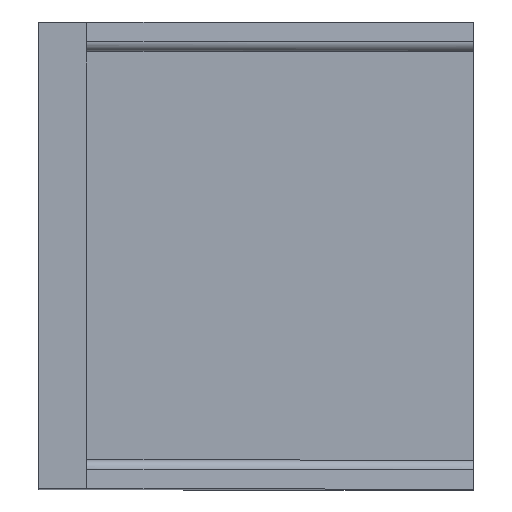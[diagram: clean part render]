
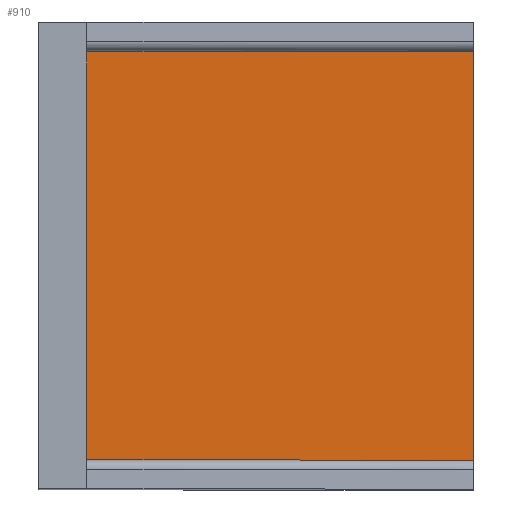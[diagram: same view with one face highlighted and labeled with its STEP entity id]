
A CAD part, top view. The second image highlights one B-rep face of the part: STEP entity #910.
In plain terms, the highlighted planar face has unit normal (0, 0, 1).
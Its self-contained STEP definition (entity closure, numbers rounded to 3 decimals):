
#858=CARTESIAN_POINT('Vertex',(45.,3.,0.)) ;
#861=CARTESIAN_POINT('Line Origine',(25.,3.,0.)) ;
#865=CARTESIAN_POINT('Vertex',(5.,3.,0.)) ;
#880=CARTESIAN_POINT('Axis2P3D Location',(45.,3.,0.)) ;
#885=CARTESIAN_POINT('Line Origine',(45.,24.15,0.)) ;
#889=CARTESIAN_POINT('Vertex',(45.,45.3,0.)) ;
#892=CARTESIAN_POINT('Line Origine',(25.,45.3,0.)) ;
#896=CARTESIAN_POINT('Vertex',(5.,45.3,0.)) ;
#899=CARTESIAN_POINT('Line Origine',(5.,24.15,0.)) ;
#862=DIRECTION('Vector Direction',(-1.,0.,0.)) ;
#881=DIRECTION('Axis2P3D Direction',(0.,-0.,1.)) ;
#882=DIRECTION('Axis2P3D XDirection',(0.,1.,0.)) ;
#886=DIRECTION('Vector Direction',(0.,1.,0.)) ;
#893=DIRECTION('Vector Direction',(-1.,0.,0.)) ;
#900=DIRECTION('Vector Direction',(0.,1.,0.)) ;
#883=AXIS2_PLACEMENT_3D('Plane Axis2P3D',#880,#881,#882) ;
#905=ORIENTED_EDGE('',*,*,#867,.F.) ;
#906=ORIENTED_EDGE('',*,*,#891,.T.) ;
#907=ORIENTED_EDGE('',*,*,#898,.T.) ;
#908=ORIENTED_EDGE('',*,*,#903,.F.) ;
#863=VECTOR('Line Direction',#862,1.) ;
#887=VECTOR('Line Direction',#886,1.) ;
#894=VECTOR('Line Direction',#893,1.) ;
#901=VECTOR('Line Direction',#900,1.) ;
#910=ADVANCED_FACE('Hauptk\X2\00F6\X0\rper',(#909),#884,.T.) ;
#867=EDGE_CURVE('',#859,#866,#864,.T.) ;
#891=EDGE_CURVE('',#859,#890,#888,.T.) ;
#898=EDGE_CURVE('',#890,#897,#895,.T.) ;
#903=EDGE_CURVE('',#866,#897,#902,.T.) ;
#904=EDGE_LOOP('',(#905,#906,#907,#908)) ;
#909=FACE_OUTER_BOUND('',#904,.T.) ;
#864=LINE('Line',#861,#863) ;
#888=LINE('Line',#885,#887) ;
#895=LINE('Line',#892,#894) ;
#902=LINE('Line',#899,#901) ;
#884=PLANE('',#883) ;
#859=VERTEX_POINT('',#858) ;
#866=VERTEX_POINT('',#865) ;
#890=VERTEX_POINT('',#889) ;
#897=VERTEX_POINT('',#896) ;
